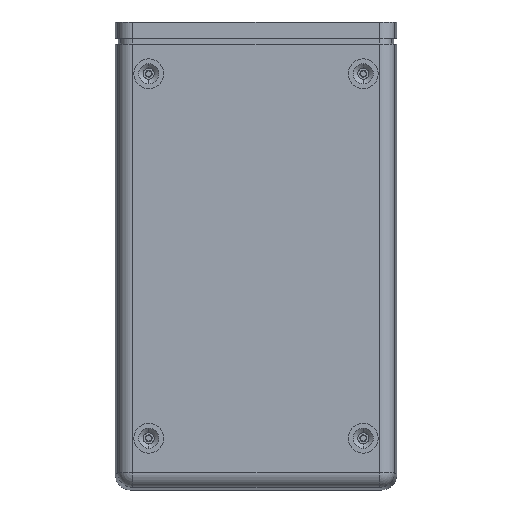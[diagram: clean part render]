
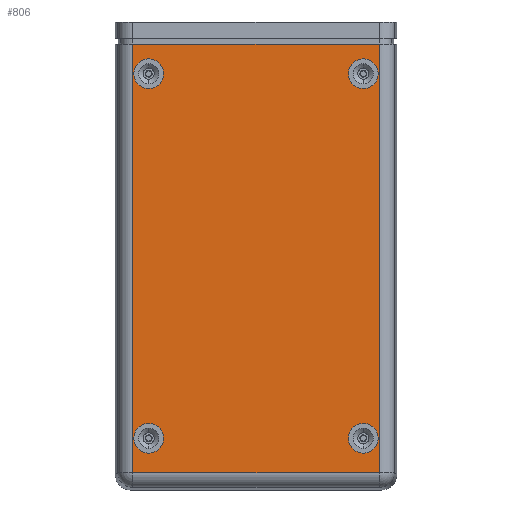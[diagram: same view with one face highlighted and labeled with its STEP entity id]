
A CAD part, front view. The second image highlights one B-rep face of the part: STEP entity #806.
In plain terms, the highlighted planar face has unit normal (0, -1, 0).
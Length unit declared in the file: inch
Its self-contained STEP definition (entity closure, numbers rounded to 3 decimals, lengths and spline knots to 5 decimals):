
#258 = CARTESIAN_POINT ( 'NONE',  ( 1.4265, -0.655, -2.225 ) ) ;
#806 = ADVANCED_FACE ( 'NONE', ( #21907, #17993, #16766, #11599, #6374 ), #16694, .F. ) ;
#814 = DIRECTION ( 'NONE',  ( 0., -1., 0. ) ) ;
#847 = CARTESIAN_POINT ( 'NONE',  ( -1.4265, -0.655, -2.423 ) ) ;
#1128 = CARTESIAN_POINT ( 'NONE',  ( -1.63777, -0.655, -3.06443 ) ) ;
#1164 = VECTOR ( 'NONE', #23177, 39.37008 ) ;
#1416 = VERTEX_POINT ( 'NONE', #8940 ) ;
#1658 = CARTESIAN_POINT ( 'NONE',  ( -1.63777, -0.655, 2.81598 ) ) ;
#1945 = DIRECTION ( 'NONE',  ( 0., 0., -1. ) ) ;
#2058 = DIRECTION ( 'NONE',  ( 0., 0., -1. ) ) ;
#2114 = LINE ( 'NONE', #14824, #11879 ) ;
#2119 = DIRECTION ( 'NONE',  ( 0., 1., 0. ) ) ;
#2121 = VERTEX_POINT ( 'NONE', #1658 ) ;
#2156 = CARTESIAN_POINT ( 'NONE',  ( 1.4265, -0.655, -2.423 ) ) ;
#2198 = CARTESIAN_POINT ( 'NONE',  ( 1.63777, -0.655, 2.81598 ) ) ;
#2286 = DIRECTION ( 'NONE',  ( 0., 0., -1. ) ) ;
#2435 = CIRCLE ( 'NONE', #16142, 0.198 ) ;
#2492 = DIRECTION ( 'NONE',  ( 0., -1., 0. ) ) ;
#2526 = CARTESIAN_POINT ( 'NONE',  ( -1.4265, -0.655, 2.423 ) ) ;
#2605 = DIRECTION ( 'NONE',  ( 0., -1., 0. ) ) ;
#2924 = DIRECTION ( 'NONE',  ( 0., 0., -1. ) ) ;
#2931 = VERTEX_POINT ( 'NONE', #24472 ) ;
#2951 = DIRECTION ( 'NONE',  ( 0., 1., 0. ) ) ;
#2983 = CARTESIAN_POINT ( 'NONE',  ( 1.4265, -0.655, 2.423 ) ) ;
#4660 = CARTESIAN_POINT ( 'NONE',  ( -1.4265, -0.655, -2.423 ) ) ;
#4884 = DIRECTION ( 'NONE',  ( 0., 1., 0. ) ) ;
#5448 = VECTOR ( 'NONE', #20536, 39.37008 ) ;
#6374 = FACE_BOUND ( 'NONE', #22674, .T. ) ;
#6513 = AXIS2_PLACEMENT_3D ( 'NONE', #14257, #2605, #16233 ) ;
#6577 = DIRECTION ( 'NONE',  ( 0., 0., -1. ) ) ;
#6648 = VECTOR ( 'NONE', #25195, 39.37008 ) ;
#7095 = EDGE_CURVE ( 'NONE', #2121, #22937, #11867, .T. ) ;
#7158 = EDGE_CURVE ( 'NONE', #19164, #2121, #17047, .T. ) ;
#7346 = EDGE_CURVE ( 'NONE', #16421, #19164, #12146, .T. ) ;
#8181 = EDGE_CURVE ( 'NONE', #16211, #13520, #13401, .T. ) ;
#8209 = EDGE_CURVE ( 'NONE', #20695, #1416, #12796, .T. ) ;
#8211 = EDGE_CURVE ( 'NONE', #21324, #8948, #2435, .T. ) ;
#8265 = EDGE_CURVE ( 'NONE', #2931, #21735, #21899, .T. ) ;
#8441 = EDGE_CURVE ( 'NONE', #22937, #16421, #2114, .T. ) ;
#8700 = CARTESIAN_POINT ( 'NONE',  ( 1.63777, -0.655, -2.87793 ) ) ;
#8831 = CARTESIAN_POINT ( 'NONE',  ( 1.4265, -0.655, 2.423 ) ) ;
#8940 = CARTESIAN_POINT ( 'NONE',  ( -1.4265, -0.655, 2.621 ) ) ;
#8948 = VERTEX_POINT ( 'NONE', #10053 ) ;
#9246 = AXIS2_PLACEMENT_3D ( 'NONE', #16814, #16687, #16664 ) ;
#9449 = CARTESIAN_POINT ( 'NONE',  ( -1.4265, -0.655, -2.225 ) ) ;
#9688 = CARTESIAN_POINT ( 'NONE',  ( 1.4265, -0.655, 2.225 ) ) ;
#10053 = CARTESIAN_POINT ( 'NONE',  ( 1.4265, -0.655, -2.621 ) ) ;
#10804 = DIRECTION ( 'NONE',  ( 0., 0., -1. ) ) ;
#11599 = FACE_BOUND ( 'NONE', #23382, .T. ) ;
#11867 = LINE ( 'NONE', #1128, #6648 ) ;
#11879 = VECTOR ( 'NONE', #22632, 39.37008 ) ;
#12146 = LINE ( 'NONE', #23419, #1164 ) ;
#12796 = CIRCLE ( 'NONE', #16212, 0.198 ) ;
#12839 = CARTESIAN_POINT ( 'NONE',  ( -1.63777, -0.655, -2.87793 ) ) ;
#13401 = CIRCLE ( 'NONE', #16218, 0.198 ) ;
#13520 = VERTEX_POINT ( 'NONE', #9688 ) ;
#13521 = CARTESIAN_POINT ( 'NONE',  ( 1.4265, -0.655, 2.621 ) ) ;
#14257 = CARTESIAN_POINT ( 'NONE',  ( -1.4265, -0.655, 2.423 ) ) ;
#14824 = CARTESIAN_POINT ( 'NONE',  ( 1.82428, -0.655, -2.87793 ) ) ;
#15714 = CARTESIAN_POINT ( 'NONE',  ( -1.4265, -0.655, 2.225 ) ) ;
#16051 = AXIS2_PLACEMENT_3D ( 'NONE', #847, #814, #1945 ) ;
#16142 = AXIS2_PLACEMENT_3D ( 'NONE', #2156, #2119, #2058 ) ;
#16211 = VERTEX_POINT ( 'NONE', #13521 ) ;
#16212 = AXIS2_PLACEMENT_3D ( 'NONE', #2526, #2492, #2286 ) ;
#16218 = AXIS2_PLACEMENT_3D ( 'NONE', #2983, #2951, #2924 ) ;
#16233 = DIRECTION ( 'NONE',  ( 0., 0., -1. ) ) ;
#16384 = EDGE_CURVE ( 'NONE', #21735, #2931, #23105, .T. ) ;
#16421 = VERTEX_POINT ( 'NONE', #8700 ) ;
#16554 = CARTESIAN_POINT ( 'NONE',  ( 1.4265, -0.655, -2.423 ) ) ;
#16664 = DIRECTION ( 'NONE',  ( 0., 0., 1. ) ) ;
#16687 = DIRECTION ( 'NONE',  ( 0., 1., 0. ) ) ;
#16694 = PLANE ( 'NONE',  #9246 ) ;
#16724 = EDGE_CURVE ( 'NONE', #8948, #21324, #20687, .T. ) ;
#16727 = EDGE_CURVE ( 'NONE', #13520, #16211, #24545, .T. ) ;
#16766 = FACE_BOUND ( 'NONE', #20537, .T. ) ;
#16814 = CARTESIAN_POINT ( 'NONE',  ( -1.87008, -0.655, 3.11024 ) ) ;
#17047 = LINE ( 'NONE', #18154, #5448 ) ;
#17993 = FACE_BOUND ( 'NONE', #22815, .T. ) ;
#18154 = CARTESIAN_POINT ( 'NONE',  ( -1.87008, -0.655, 2.81598 ) ) ;
#18277 = DIRECTION ( 'NONE',  ( 0., -1., 0. ) ) ;
#18479 = DIRECTION ( 'NONE',  ( 0., 0., -1. ) ) ;
#18520 = AXIS2_PLACEMENT_3D ( 'NONE', #8831, #22372, #10804 ) ;
#18676 = AXIS2_PLACEMENT_3D ( 'NONE', #16554, #4884, #18479 ) ;
#19164 = VERTEX_POINT ( 'NONE', #2198 ) ;
#19245 = EDGE_CURVE ( 'NONE', #1416, #20695, #19322, .T. ) ;
#19322 = CIRCLE ( 'NONE', #6513, 0.198 ) ;
#20162 = ORIENTED_EDGE ( 'NONE', *, *, #8181, .T. ) ;
#20436 = ORIENTED_EDGE ( 'NONE', *, *, #16727, .T. ) ;
#20536 = DIRECTION ( 'NONE',  ( -1., 0., 0. ) ) ;
#20537 = EDGE_LOOP ( 'NONE', ( #21237, #21018 ) ) ;
#20607 = ORIENTED_EDGE ( 'NONE', *, *, #19245, .F. ) ;
#20687 = CIRCLE ( 'NONE', #18676, 0.198 ) ;
#20695 = VERTEX_POINT ( 'NONE', #15714 ) ;
#20934 = AXIS2_PLACEMENT_3D ( 'NONE', #4660, #18277, #6577 ) ;
#20999 = ORIENTED_EDGE ( 'NONE', *, *, #8209, .F. ) ;
#21018 = ORIENTED_EDGE ( 'NONE', *, *, #8211, .T. ) ;
#21237 = ORIENTED_EDGE ( 'NONE', *, *, #16724, .T. ) ;
#21315 = ORIENTED_EDGE ( 'NONE', *, *, #16384, .F. ) ;
#21324 = VERTEX_POINT ( 'NONE', #258 ) ;
#21436 = ORIENTED_EDGE ( 'NONE', *, *, #8265, .F. ) ;
#21556 = ORIENTED_EDGE ( 'NONE', *, *, #8441, .T. ) ;
#21660 = ORIENTED_EDGE ( 'NONE', *, *, #7095, .T. ) ;
#21709 = ORIENTED_EDGE ( 'NONE', *, *, #7158, .T. ) ;
#21735 = VERTEX_POINT ( 'NONE', #9449 ) ;
#21845 = ORIENTED_EDGE ( 'NONE', *, *, #7346, .T. ) ;
#21899 = CIRCLE ( 'NONE', #16051, 0.198 ) ;
#21907 = FACE_OUTER_BOUND ( 'NONE', #22440, .T. ) ;
#22372 = DIRECTION ( 'NONE',  ( 0., 1., 0. ) ) ;
#22440 = EDGE_LOOP ( 'NONE', ( #21845, #21709, #21660, #21556 ) ) ;
#22632 = DIRECTION ( 'NONE',  ( 1., 0., 0. ) ) ;
#22674 = EDGE_LOOP ( 'NONE', ( #20436, #20162 ) ) ;
#22815 = EDGE_LOOP ( 'NONE', ( #21436, #21315 ) ) ;
#22937 = VERTEX_POINT ( 'NONE', #12839 ) ;
#23105 = CIRCLE ( 'NONE', #20934, 0.198 ) ;
#23177 = DIRECTION ( 'NONE',  ( 0., 0., 1. ) ) ;
#23382 = EDGE_LOOP ( 'NONE', ( #20999, #20607 ) ) ;
#23419 = CARTESIAN_POINT ( 'NONE',  ( 1.63777, -0.655, 3.11024 ) ) ;
#24472 = CARTESIAN_POINT ( 'NONE',  ( -1.4265, -0.655, -2.621 ) ) ;
#24545 = CIRCLE ( 'NONE', #18520, 0.198 ) ;
#25195 = DIRECTION ( 'NONE',  ( 0., 0., -1. ) ) ;
